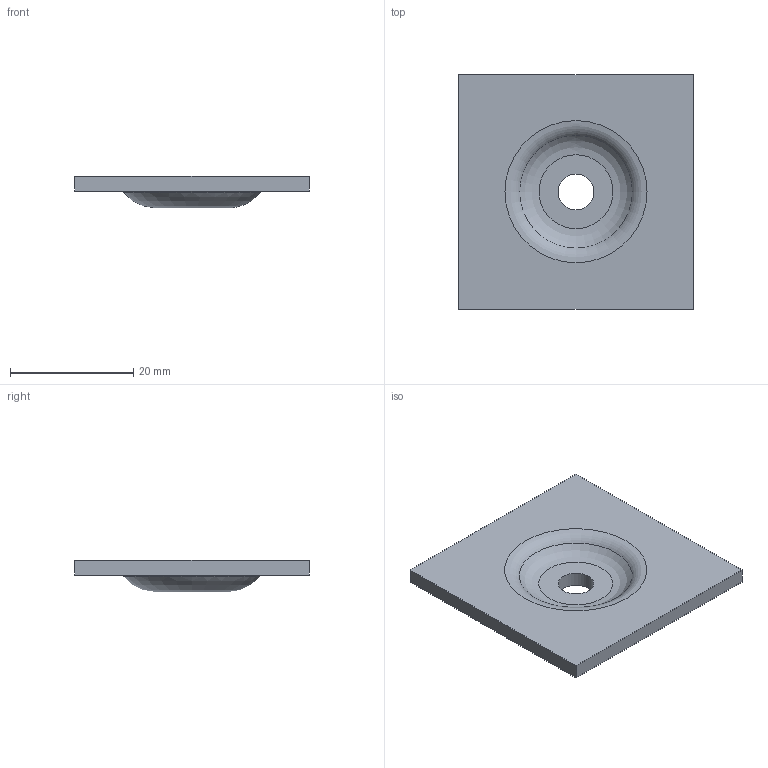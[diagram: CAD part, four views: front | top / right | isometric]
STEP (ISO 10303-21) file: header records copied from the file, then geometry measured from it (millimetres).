
FILE_DESCRIPTION((''),'1');
FILE_NAME('C:/Users/robertnolte/Desktop/16-0035-04 REV NONE EMBOSS.stp','2012-05-15T22:09:38',(''),(''),'Spatial Interop R21 SP3','Kubotek KeyCreator 2011 V10.5.0 (24766)',' ');
FILE_SCHEMA(('CONFIG_CONTROL_DESIGN'));
Length unit declared in the file: inch
Products named in the file (1): 1
Bounding box: 38.1 x 38.1 x 5.13 mm (x, y, z)
Volume: 3561.6 mm3; surface area: 3363.7 mm2
Topology: 1 solids, 1 shells, 13 faces, 25 edges, 16 vertices
Faces by surface type: plane 8, torus 4, cylinder 1
Full cylindrical faces by diameter (mm): 5.8 x1
Entity records: 354 total; most frequent: DIRECTION 56, CARTESIAN_POINT 50, ORIENTED_EDGE 40, AXIS2_PLACEMENT_3D 22, EDGE_LOOP 22, EDGE_CURVE 20, VERTEX_POINT 16, FACE_BOUND 14
